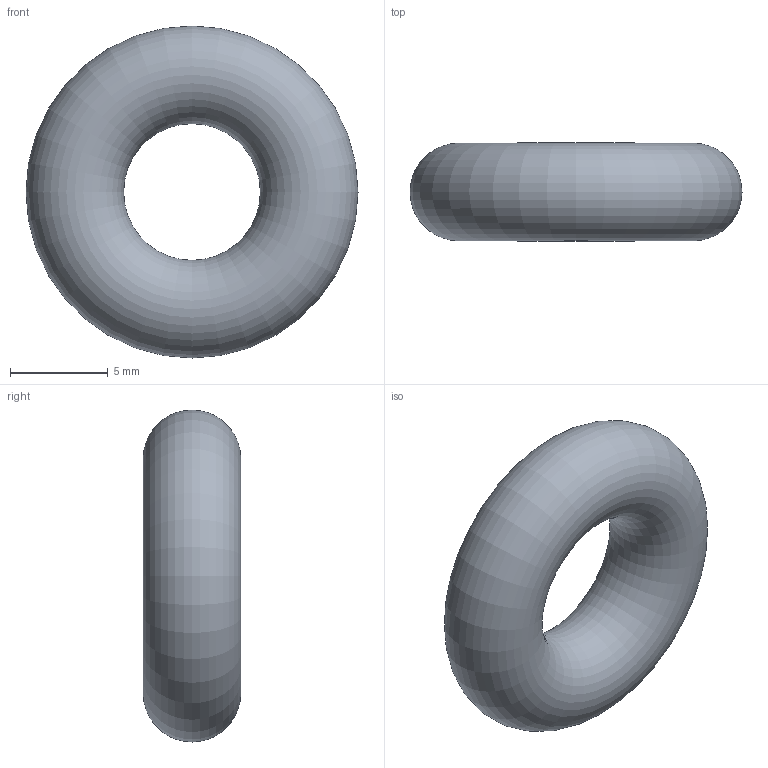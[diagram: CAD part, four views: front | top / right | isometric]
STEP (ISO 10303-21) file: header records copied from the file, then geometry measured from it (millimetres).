
FILE_DESCRIPTION(('Open CASCADE Model'),'2;1');
FILE_NAME('Open CASCADE Shape Model','2026-11-23T20:25:51',('Author'),( 'Open CASCADE'),'Open CASCADE STEP processor 7.9','Open CASCADE 7.9' ,'Unknown');
FILE_SCHEMA(('AUTOMOTIVE_DESIGN { 1 0 10303 214 1 1 1 1 }'));
Length unit declared in the file: millimetre
Products named in the file (1): Open CASCADE STEP translator 7.9 32
Bounding box: 17 x 5 x 17 mm (x, y, z)
Volume: 740.2 mm3; surface area: 592.2 mm2
Topology: 1 solids, 1 shells, 1 faces, 2 edges, 1 vertices
Faces by surface type: torus 1
Entity records: 70 total; most frequent: DIRECTION 12, CARTESIAN_POINT 9, AXIS2_PLACEMENT_3D 4, ORIENTED_EDGE 4, PCURVE 4, DEFINITIONAL_REPRESENTATION 4, LINE 4, VECTOR 4
